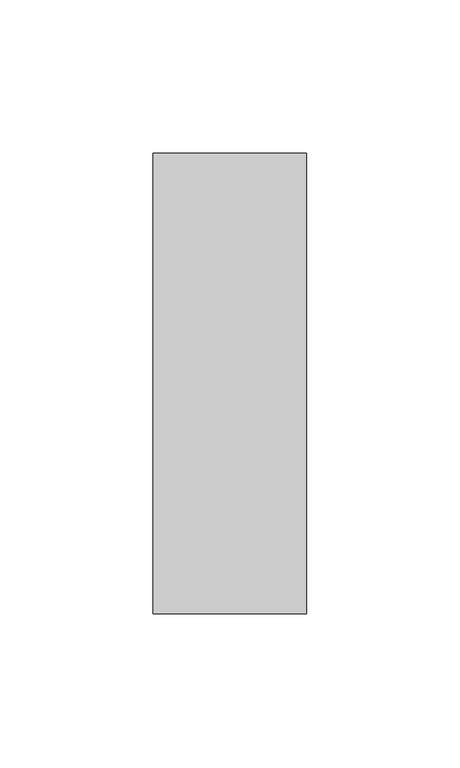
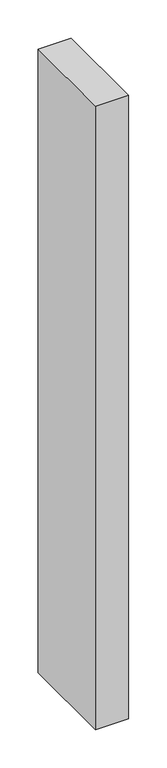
"""IFC4 building model written with IfcOpenShell, lengths in millimetres: member geometry, Прямоугольный импост : 50 x 150 мм."""

import ifcopenshell
import ifcopenshell.guid

model = None  # the IFC model being written
_history = None  # IfcOwnerHistory: only IFC2X3 demands one
_inside = {}  # id of a spatial element -> (the spatial element, [elements in it])
_under = {}  # id of a project, library or spatial element -> (it, [spatial elements below it])
_declared = {}  # id of a project -> (the project, [libraries it declares])
_typed = {}  # id of a type object -> (the type object, [elements of that type])
_made_of = {}  # id of a material, layer set ... -> (it, [elements and type objects made of it])


def new_model(schema):
    """Start an empty IFC model of exactly this schema.

    Asked for "IFC4X3", IfcOpenShell would pick the latest addendum, in which some entities
    have other attributes; the version numbers below select the first issue.
    IFC2X3 requires an IfcOwnerHistory on every rooted entity: one is made here for all.
    """
    global model, _history
    if schema == "IFC4X3":
        model = ifcopenshell.file(schema_version=(4, 3, 0, 0))
    else:
        model = ifcopenshell.file(schema=schema)
    _inside.clear()
    _under.clear()
    _declared.clear()
    _typed.clear()
    _made_of.clear()
    _history = None
    if model.schema == "IFC2X3":
        org = make("IfcOrganization", Name="unknown")
        user = make(
            "IfcPersonAndOrganization",
            ThePerson=make("IfcPerson", FamilyName="unknown"),
            TheOrganization=org,
        )
        app = make(
            "IfcApplication",
            ApplicationDeveloper=org,
            Version="unknown",
            ApplicationFullName="unknown",
            ApplicationIdentifier="unknown",
        )
        _history = make(
            "IfcOwnerHistory",
            OwningUser=user,
            OwningApplication=app,
            ChangeAction="ADDED",
            CreationDate=0,
        )
    return model


def make(cls, **values):
    """One entity of the class cls with the attributes given. An attribute that is None is left unset."""
    return model.create_entity(
        cls, **{name: value for name, value in values.items() if value is not None}
    )


def rooted(cls, **values):
    """An entity with a GlobalId (a new one), such as an element, a storey or a relation."""
    return make(cls, GlobalId=ifcopenshell.guid.new(), OwnerHistory=_history, **values)


def si_unit(unit_type, name, prefix=None):
    """IfcSIUnit, for example si_unit("LENGTHUNIT", "METRE", prefix="MILLI")."""
    return make("IfcSIUnit", UnitType=unit_type, Prefix=prefix, Name=name)


def assignment(units):
    """IfcUnitAssignment: the units of a project."""
    return None if units is None else make("IfcUnitAssignment", Units=units)


def point(xyz):
    """IfcCartesianPoint."""
    return None if xyz is None else make("IfcCartesianPoint", Coordinates=xyz)


def direction(xyz):
    """IfcDirection."""
    return None if xyz is None else make("IfcDirection", DirectionRatios=xyz)


def frame(location, z_axis=None, x_axis=None):
    """IfcAxis2Placement3D, a coordinate frame: its origin and axes. An axis left out is left unset."""
    return make(
        "IfcAxis2Placement3D",
        Location=point(location),
        Axis=direction(z_axis),
        RefDirection=direction(x_axis),
    )


def origin():
    """The frame at (0, 0, 0) with its axes left unset."""
    return frame((0.0, 0.0, 0.0))


def place(relative_to, where):
    """IfcLocalPlacement: puts the frame where relative to a parent placement (None: the world)."""
    return make(
        "IfcLocalPlacement", PlacementRelTo=relative_to, RelativePlacement=where
    )


def context(
    kind, dimensions, precision=None, world=None, true_north=None, identifier=None
):
    """IfcGeometricRepresentationContext, for example the 3D "Model" context."""
    return make(
        "IfcGeometricRepresentationContext",
        ContextIdentifier=identifier,
        ContextType=kind,
        CoordinateSpaceDimension=dimensions,
        Precision=precision,
        WorldCoordinateSystem=world,
        TrueNorth=true_north,
    )


def project(units=None, contexts=None):
    """IfcProject with its units and contexts."""
    return rooted(
        "IfcProject",
        Name="project",
        RepresentationContexts=contexts,
        UnitsInContext=assignment(units),
    )


def spatial(cls, under=None, at=None, **own):
    """A site, building, storey or space (cls), placed at a placement, below another one or the project."""
    s = rooted(cls, ObjectPlacement=at, **own)
    if under is not None:
        _under.setdefault(under.id(), (under, []))[1].append(s)
    return s


def polyline(points):
    """IfcPolyline through the points."""
    return make("IfcPolyline", Points=[point(p) for p in points])


def outline(outer, holes=None, kind="AREA"):
    """IfcArbitraryClosedProfileDef: a profile drawn as a closed curve; with holes, ...WithVoids."""
    if holes is None:
        return make("IfcArbitraryClosedProfileDef", ProfileType=kind, OuterCurve=outer)
    return make(
        "IfcArbitraryProfileDefWithVoids",
        ProfileType=kind,
        OuterCurve=outer,
        InnerCurves=holes,
    )


def extrude(swept, where, along, depth):
    """IfcExtrudedAreaSolid: the profile swept, set in the frame where, extruded along a direction by depth."""
    return make(
        "IfcExtrudedAreaSolid",
        SweptArea=swept,
        Position=where,
        ExtrudedDirection=direction(along),
        Depth=depth,
    )


def shape(context_of_items, identifier, shape_type, items):
    """IfcShapeRepresentation: the items that make up one representation, for example the "Body"."""
    return make(
        "IfcShapeRepresentation",
        ContextOfItems=context_of_items,
        RepresentationIdentifier=identifier,
        RepresentationType=shape_type,
        Items=items,
    )


def source(mapping_origin, context_of_items, identifier, shape_type, items):
    """IfcRepresentationMap: a shape defined once, which mapped items show again and again."""
    return make(
        "IfcRepresentationMap",
        MappingOrigin=mapping_origin,
        MappedRepresentation=shape(context_of_items, identifier, shape_type, items),
    )


def transform(
    local_origin,
    x_axis=None,
    y_axis=None,
    z_axis=None,
    scale=None,
    scale2=None,
    scale3=None,
    uniform=True,
):
    """IfcCartesianTransformationOperator3D, or its non-uniform kind. x_axis, y_axis, z_axis: its Axis1, 2, 3."""
    if uniform:
        return make(
            "IfcCartesianTransformationOperator3D",
            Axis1=direction(x_axis),
            Axis2=direction(y_axis),
            LocalOrigin=point(local_origin),
            Scale=scale,
            Axis3=direction(z_axis),
        )
    return make(
        "IfcCartesianTransformationOperator3DnonUniform",
        Axis1=direction(x_axis),
        Axis2=direction(y_axis),
        LocalOrigin=point(local_origin),
        Scale=scale,
        Axis3=direction(z_axis),
        Scale2=scale2,
        Scale3=scale3,
    )


def mapped(mapping_source, mapping_target):
    """IfcMappedItem: shows the shape of a source again, moved by a transform."""
    return make(
        "IfcMappedItem", MappingSource=mapping_source, MappingTarget=mapping_target
    )


def made_of(thing, what):
    """Note that an element or type object is made of a material, layer set ...; save() writes the relation."""
    if what is not None:
        _made_of.setdefault(what.id(), (what, []))[1].append(thing)
    return thing


def element(
    cls,
    number,
    at=None,
    inside=None,
    cuts=None,
    type_object=None,
    material=None,
    context=None,
    identifier="Body",
    shape_type=None,
    held_by="IfcProductDefinitionShape",
    body=None,
    shapes=None,
    **own,
):
    """One element of the class cls, such as IfcWall. Its Tag is "e" and its number.

    at: its placement. inside: the storey or other place that contains it. cuts: it is an
    opening in that element (IfcRelVoidsElement). A single representation is given by context,
    identifier, shape_type and body (its items); several are given by shapes. held_by: the class
    of the entity that holds the representations. save() writes the other relations.
    """
    e = rooted(cls, Tag="e%d" % number, ObjectPlacement=at, **own)
    if body is not None:
        shapes = [shape(context, identifier, shape_type, body)]
    if shapes is not None:
        e.Representation = make(held_by, Representations=shapes)
    if inside is not None:
        _inside.setdefault(inside.id(), (inside, []))[1].append(e)
    if cuts is not None:
        rooted(
            "IfcRelVoidsElement", RelatingBuildingElement=cuts, RelatedOpeningElement=e
        )
    if type_object is not None:
        _typed.setdefault(type_object.id(), (type_object, []))[1].append(e)
    return made_of(e, material)


def aggregate(whole, parts):
    """IfcRelAggregates: a whole, such as a stair, and the parts it consists of."""
    return rooted("IfcRelAggregates", RelatingObject=whole, RelatedObjects=parts)


def save(model, path):
    """Write the relations noted so far, then the file.

    IfcRelAggregates (storeys below a building ...), IfcRelContainedInSpatialStructure (elements
    in a storey), IfcRelDefinesByType, IfcRelAssociatesMaterial and IfcRelDeclares: one each for
    every whole, place, type object, material and project.
    """
    for whole, parts in _under.values():
        aggregate(whole, parts)
    for where, things in _inside.values():
        rooted(
            "IfcRelContainedInSpatialStructure",
            RelatedElements=things,
            RelatingStructure=where,
        )
    for kind, things in _typed.values():
        rooted("IfcRelDefinesByType", RelatedObjects=things, RelatingType=kind)
    for what, things in _made_of.values():
        rooted("IfcRelAssociatesMaterial", RelatedObjects=things, RelatingMaterial=what)
    for by, libraries in _declared.values():
        rooted("IfcRelDeclares", RelatingContext=by, RelatedDefinitions=libraries)
    model.write(path)


def member_fe67245c(model_context):
    return source(origin(), model_context, "Body", "SweptSolid", [
        extrude(outline(polyline([(25.0, 75.0), (25.0, -75.0), (-25.0, -75.0), (-25.0, 75.0), (25.0, 75.0)])), frame((0.0, 0.0, -994.2998917), z_axis=(0.0, 0.0, 1.0), x_axis=(1.0, 0.0, 0.0)), (0.0, 0.0, 1.0), 994.2998917),
    ])


if __name__ == "__main__":
    model = new_model("IFC4")
    model_context = context("Model", 3, world=origin())
    ifc_project = project(units=[si_unit("LENGTHUNIT", "METRE", prefix="MILLI")], contexts=[model_context])
    site = spatial("IfcSite", under=ifc_project)
    building = spatial("IfcBuilding", under=site)
    placement = place(None, origin())
    member_shape = member_fe67245c(model_context)
    element("IfcMember", 1, ObjectType="Прямоугольный импост : 50 x 150 мм", at=placement, inside=building, context=model_context, shape_type="MappedRepresentation", body=[
        mapped(member_shape, transform((0.0, 0.0, 0.0), x_axis=(1.0, 0.0, 0.0), y_axis=(0.0, 1.0, 0.0), z_axis=(0.0, 0.0, 1.0))),
    ])
    save(model, "model.ifc")
